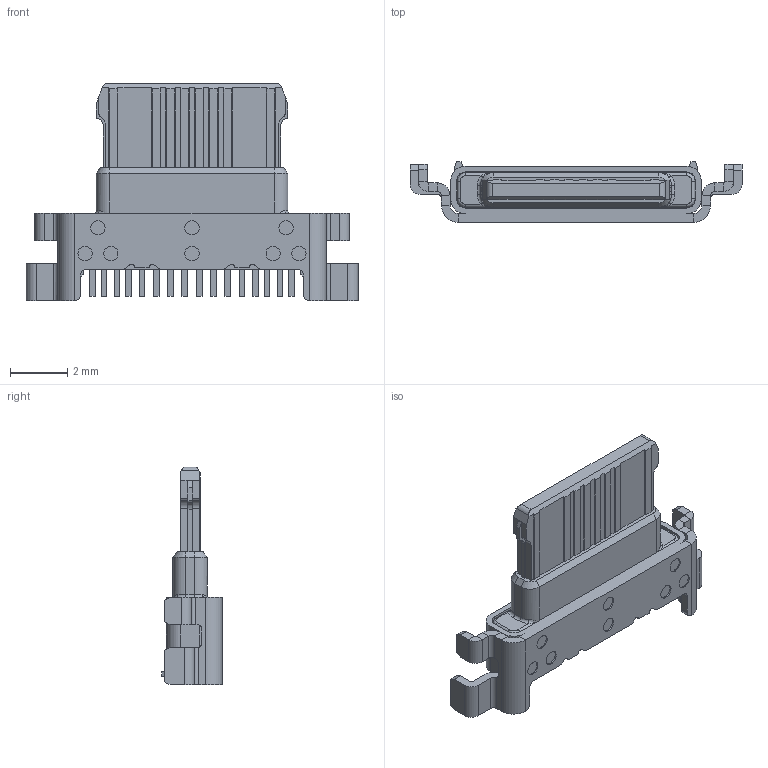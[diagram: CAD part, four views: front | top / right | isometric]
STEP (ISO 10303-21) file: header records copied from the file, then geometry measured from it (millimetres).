
FILE_DESCRIPTION((''),'2;1');
FILE_NAME('TYPE_C_16PIN_CUT_060_X2235','2026-01-20T19:04:24',('lenovo'),(''),'CREO PARAMETRIC BY PTC INC, 2024063','CREO PARAMETRIC BY PTC INC, 2024063','');
FILE_SCHEMA(('AUTOMOTIVE_DESIGN { 1 0 10303 214 1 1 1 1 }'));
Length unit declared in the file: millimetre
Products named in the file (1): TYPE_C_16PIN_CUT_060_X2235
Bounding box: 11.6 x 2.13 x 7.6 mm (x, y, z)
Volume: 61.5 mm3; surface area: 233.6 mm2
Topology: 1 solids, 1 shells, 546 faces, 1418 edges, 896 vertices
Faces by surface type: plane 382, cylinder 128, cone 24, torus 8, bspline 4
Entity records: 16861 total; most frequent: CARTESIAN_POINT 3278, ORIENTED_EDGE 2836, DIRECTION 2734, EDGE_CURVE 1418, VECTOR 1090, LINE 1090, VERTEX_POINT 896, AXIS2_PLACEMENT_3D 822
